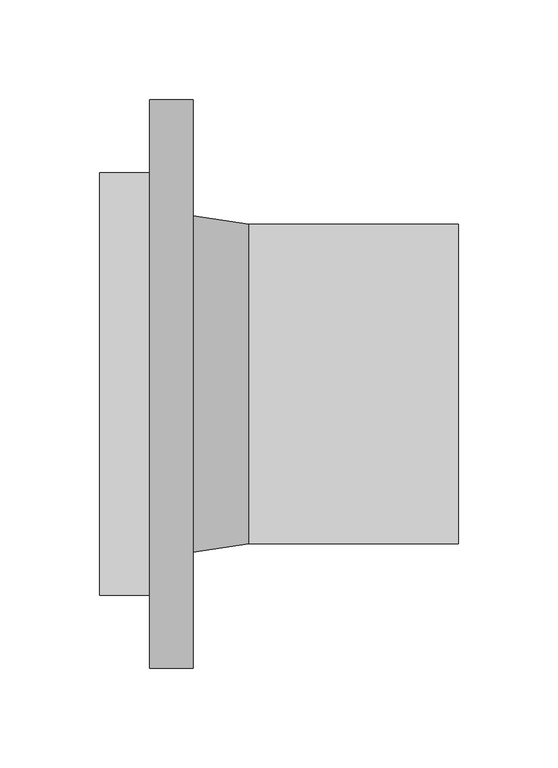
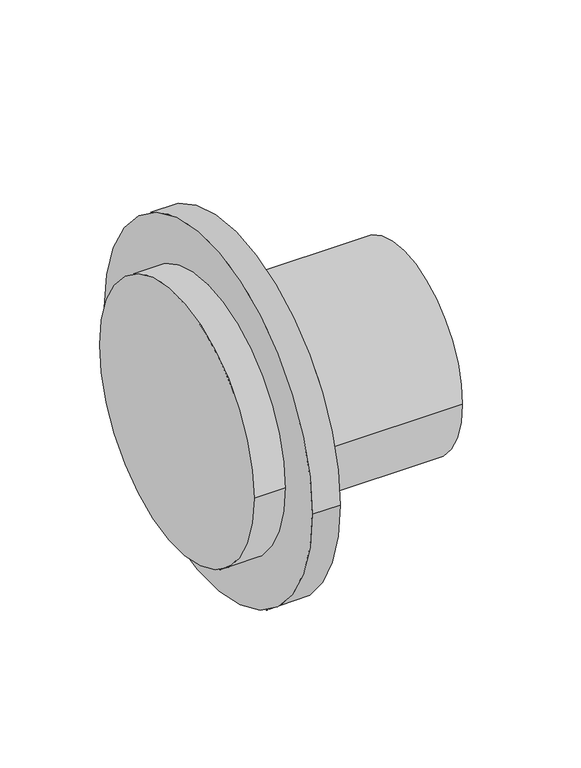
"""IFC4 building model written with IfcOpenShell, lengths in millimetres: pipe fitting geometry, NIRON RED termofusion casquillo con brida SDR 11 : Estándar."""

from ifc_helpers import new_model, si_unit, point, frame, origin, origin_2d, place, context, project, spatial, polyline, circle_curve, trimmed, segment, composite_curve, outline, extrude, source, transform, mapped, element, save
from ifc_brep_helpers import plane_surface, revolved_surface, advanced_brep


def pipe_fitting_d732f1f8(model_context):
    return source(origin(), model_context, "Body", "SolidModel", [
        extrude(outline(composite_curve([segment(trimmed(circle_curve(origin_2d(), 142.5), [point((142.5, 0.0))], [point((-142.5, 0.0))], False, "CARTESIAN"), True, "CONTINUOUS"), segment(trimmed(circle_curve(origin_2d(), 142.5), [point((-142.5, 0.0))], [point((142.5, 0.0))], False, "CARTESIAN"), True, "CONTINUOUS")], self_intersect=False), holes=[composite_curve([segment(trimmed(circle_curve(origin_2d(), 89.0), [point((89.0, 0.0))], [point((-89.0, 0.0))], True, "CARTESIAN"), True, "CONTINUOUS"), segment(trimmed(circle_curve(origin_2d(), 89.0), [point((-89.0, 0.0))], [point((89.0, 0.0))], True, "CARTESIAN"), True, "CONTINUOUS")], self_intersect=False)]), frame((25.0, 0.0, 0.0), z_axis=(1.0, 0.0, 0.0), x_axis=(0.0, 1.0, 0.0)), (0.0, 0.0, 1.0), 22.0),
        extrude(outline(composite_curve([segment(trimmed(circle_curve(origin_2d(), 80.0), [point((-80.0, 0.0))], [point((80.0, 0.0))], False, "CARTESIAN"), True, "CONTINUOUS"), segment(trimmed(circle_curve(origin_2d(), 80.0), [point((80.0, 0.0))], [point((-80.0, 0.0))], False, "CARTESIAN"), True, "CONTINUOUS")], self_intersect=False)), frame((75.0, 0.0, 0.0), z_axis=(1.0, 0.0, 0.0), x_axis=(0.0, 1.0, 0.0)), (0.0, 0.0, 1.0), 105.0),
        advanced_brep(
        [(75.0, -80.0, 0.0), (75.0, 80.0, 0.0), (25.0, -87.5, 0.0), (25.0, 87.5, 0.0)],
        [
            (0, 1, circle_curve(frame((75.0, 0.0, 0.0), z_axis=(1.0, 0.0, 0.0), x_axis=(0.0, -1.0, 0.0)), 80.0)),
            (1, 0, circle_curve(frame((75.0, 0.0, 0.0), z_axis=(1.0, 0.0, 0.0), x_axis=(0.0, 1.0, 0.0)), 80.0)),
            (2, 3, circle_curve(frame((25.0, 0.0, 0.0), z_axis=(-1.0, 0.0, 0.0), x_axis=(0.0, 1.0, 0.0)), 87.5)),
            (3, 2, circle_curve(frame((25.0, 0.0, 0.0), z_axis=(-1.0, 0.0, 0.0), x_axis=(0.0, -1.0, 0.0)), 87.5)),
            (3, 1),
            (0, 2),
        ],
        [
            plane_surface(frame((75.0, 0.0, 0.0), z_axis=(1.0, 0.0, 0.0), x_axis=(0.0, 0.0, -1.0))),
            plane_surface(frame((25.0, 0.0, 0.0), z_axis=(-1.0, 0.0, 0.0), x_axis=(0.0, 0.0, -1.0))),
            revolved_surface(polyline([(75.0, -79.99999999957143, 0.0), (25.0, -87.5, 0.0)]), (608.3333333, 0.0, 0.0), (-1.0, 0.0, 0.0)),
            revolved_surface(polyline([(75.0, 79.99999999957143, 0.0), (25.0, 87.5, 0.0)]), (608.3333333, 0.0, 0.0), (-1.0, 0.0, 0.0)),
        ],
        [
            (0, [[1, 2]]),
            (1, [[3, 4]]),
            (2, [[-4, 5, -1, 6]]),
            (3, [[-3, -6, -2, -5]]),
        ],
    ),
        extrude(outline(composite_curve([segment(trimmed(circle_curve(origin_2d(), 106.0), [point((-106.0, 0.0))], [point((106.0, 0.0))], False, "CARTESIAN"), True, "CONTINUOUS"), segment(trimmed(circle_curve(origin_2d(), 106.0), [point((106.0, 0.0))], [point((-106.0, 0.0))], False, "CARTESIAN"), True, "CONTINUOUS")], self_intersect=False)), frame((0.0, 0.0, 0.0), z_axis=(1.0, 0.0, 0.0), x_axis=(0.0, 1.0, 0.0)), (0.0, 0.0, 1.0), 25.0),
    ])


if __name__ == "__main__":
    model = new_model("IFC4")
    model_context = context("Model", 3, world=origin())
    ifc_project = project(units=[si_unit("LENGTHUNIT", "METRE", prefix="MILLI")], contexts=[model_context])
    site = spatial("IfcSite", under=ifc_project)
    building = spatial("IfcBuilding", under=site)
    placement = place(None, origin())
    pipe_fitting_shape = pipe_fitting_d732f1f8(model_context)
    element("IfcPipeFitting", 1, ObjectType="NIRON RED termofusion casquillo con brida SDR 11 : Estándar", at=placement, inside=building, context=model_context, shape_type="MappedRepresentation", body=[
        mapped(pipe_fitting_shape, transform((0.0, 0.0, 0.0), x_axis=(1.0, 0.0, 0.0), y_axis=(0.0, 1.0, 0.0), z_axis=(0.0, 0.0, 1.0))),
    ])
    save(model, "model.ifc")
